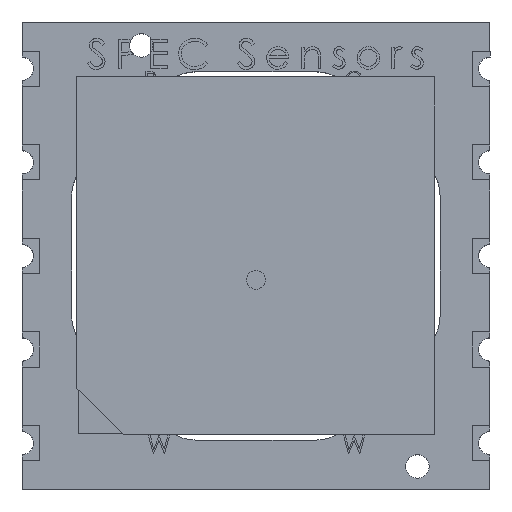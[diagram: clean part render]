
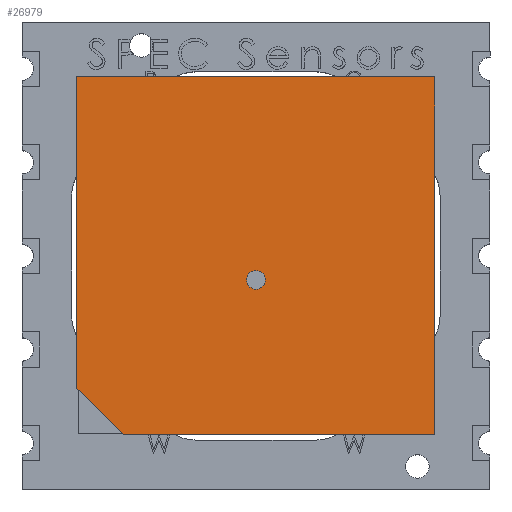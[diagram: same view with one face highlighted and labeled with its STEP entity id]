
A CAD part, top view. The second image highlights one B-rep face of the part: STEP entity #26979.
In plain terms, the highlighted planar face has unit normal (0, 0, 1).
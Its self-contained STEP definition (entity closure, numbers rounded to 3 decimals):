
#448 = CARTESIAN_POINT ( 'NONE',  ( -20.012, 22.389, 1.369 ) ) ;
#468 = VERTEX_POINT ( 'NONE', #13810 ) ;
#700 = FACE_BOUND ( 'NONE', #16190, .T. ) ;
#2149 = VECTOR ( 'NONE', #11956, 1000. ) ;
#3002 = VERTEX_POINT ( 'NONE', #10307 ) ;
#3329 = DIRECTION ( 'NONE',  ( 0., 1., 0. ) ) ;
#3391 = VECTOR ( 'NONE', #3824, 1000. ) ;
#3824 = DIRECTION ( 'NONE',  ( -1., 0., 0. ) ) ;
#4313 = VERTEX_POINT ( 'NONE', #11421 ) ;
#4554 = VECTOR ( 'NONE', #18292, 1000. ) ;
#5081 = EDGE_CURVE ( 'NONE', #468, #468, #28032, .T. ) ;
#7337 = DIRECTION ( 'NONE',  ( 0.707, -0.707, 0. ) ) ;
#7564 = LINE ( 'NONE', #26190, #3391 ) ;
#8388 = LINE ( 'NONE', #9922, #2149 ) ;
#8644 = VERTEX_POINT ( 'NONE', #26645 ) ;
#9378 = LINE ( 'NONE', #448, #4554 ) ;
#9571 = CARTESIAN_POINT ( 'NONE',  ( -12.362, 13.714, 1.369 ) ) ;
#9673 = ORIENTED_EDGE ( 'NONE', *, *, #26519, .T. ) ;
#9922 = CARTESIAN_POINT ( 'NONE',  ( -18.012, 7.089, 1.369 ) ) ;
#10307 = CARTESIAN_POINT ( 'NONE',  ( -4.712, 22.389, 1.369 ) ) ;
#10961 = EDGE_CURVE ( 'NONE', #13953, #12690, #19008, .T. ) ;
#11037 = CARTESIAN_POINT ( 'NONE',  ( 0., 0., 1.369 ) ) ;
#11417 = ORIENTED_EDGE ( 'NONE', *, *, #26265, .T. ) ;
#11421 = CARTESIAN_POINT ( 'NONE',  ( -20.012, 22.389, 1.369 ) ) ;
#11937 = AXIS2_PLACEMENT_3D ( 'NONE', #9571, #27197, #27289 ) ;
#11956 = DIRECTION ( 'NONE',  ( 1., 0., 0. ) ) ;
#12246 = EDGE_LOOP ( 'NONE', ( #11417, #15187, #9673, #21354, #26239 ) ) ;
#12690 = VERTEX_POINT ( 'NONE', #13419 ) ;
#13234 = FACE_OUTER_BOUND ( 'NONE', #12246, .T. ) ;
#13419 = CARTESIAN_POINT ( 'NONE',  ( -18.012, 7.089, 1.369 ) ) ;
#13579 = PLANE ( 'NONE',  #26283 ) ;
#13675 = DIRECTION ( 'NONE',  ( 1., 0., 0. ) ) ;
#13810 = CARTESIAN_POINT ( 'NONE',  ( -11.962, 13.714, 1.369 ) ) ;
#13953 = VERTEX_POINT ( 'NONE', #25779 ) ;
#15187 = ORIENTED_EDGE ( 'NONE', *, *, #16683, .T. ) ;
#16190 = EDGE_LOOP ( 'NONE', ( #17271 ) ) ;
#16683 = EDGE_CURVE ( 'NONE', #3002, #4313, #7564, .T. ) ;
#17271 = ORIENTED_EDGE ( 'NONE', *, *, #5081, .F. ) ;
#18292 = DIRECTION ( 'NONE',  ( 0., -1., 0. ) ) ;
#18328 = LINE ( 'NONE', #22755, #20781 ) ;
#19008 = LINE ( 'NONE', #20711, #23553 ) ;
#20711 = CARTESIAN_POINT ( 'NONE',  ( -20.012, 9.089, 1.369 ) ) ;
#20781 = VECTOR ( 'NONE', #3329, 1000. ) ;
#21354 = ORIENTED_EDGE ( 'NONE', *, *, #10961, .T. ) ;
#22392 = DIRECTION ( 'NONE',  ( 0., 0., 1. ) ) ;
#22755 = CARTESIAN_POINT ( 'NONE',  ( -4.712, 22.389, 1.369 ) ) ;
#23439 = EDGE_CURVE ( 'NONE', #12690, #8644, #8388, .T. ) ;
#23553 = VECTOR ( 'NONE', #7337, 1000. ) ;
#25779 = CARTESIAN_POINT ( 'NONE',  ( -20.012, 9.089, 1.369 ) ) ;
#26190 = CARTESIAN_POINT ( 'NONE',  ( -20.012, 22.389, 1.369 ) ) ;
#26239 = ORIENTED_EDGE ( 'NONE', *, *, #23439, .T. ) ;
#26265 = EDGE_CURVE ( 'NONE', #8644, #3002, #18328, .T. ) ;
#26283 = AXIS2_PLACEMENT_3D ( 'NONE', #11037, #22392, #13675 ) ;
#26519 = EDGE_CURVE ( 'NONE', #4313, #13953, #9378, .T. ) ;
#26645 = CARTESIAN_POINT ( 'NONE',  ( -4.712, 7.089, 1.369 ) ) ;
#26979 = ADVANCED_FACE ( 'NONE', ( #700, #13234 ), #13579, .T. ) ;
#27197 = DIRECTION ( 'NONE',  ( 0., 0., 1. ) ) ;
#27289 = DIRECTION ( 'NONE',  ( 1., 0., 0. ) ) ;
#28032 = CIRCLE ( 'NONE', #11937, 0.4 ) ;
